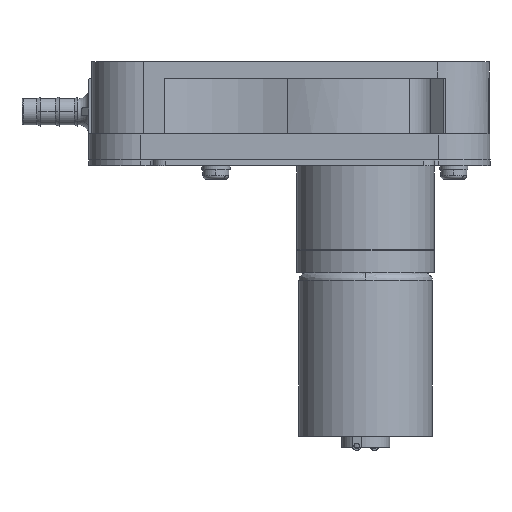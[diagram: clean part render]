
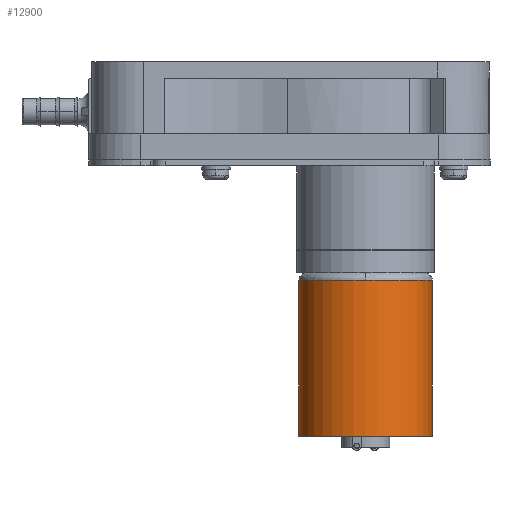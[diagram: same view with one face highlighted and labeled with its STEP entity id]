
A CAD part, left-side view. The second image highlights one B-rep face of the part: STEP entity #12900.
In plain terms, the highlighted cylindrical face has radius 18 mm (diameter 36 mm), a partial arc.
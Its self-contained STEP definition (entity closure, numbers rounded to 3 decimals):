
#16 = DIRECTION ( 'NONE',  ( 0., 0., 1. ) ) ;
#210 = VERTEX_POINT ( 'NONE', #24117 ) ;
#752 = LINE ( 'NONE', #6839, #9950 ) ;
#1146 = EDGE_CURVE ( 'NONE', #210, #17193, #12406, .T. ) ;
#1192 = ORIENTED_EDGE ( 'NONE', *, *, #11186, .F. ) ;
#1633 = CIRCLE ( 'NONE', #13971, 18. ) ;
#2136 = CARTESIAN_POINT ( 'NONE',  ( 0., 31.05, 0. ) ) ;
#2838 = ORIENTED_EDGE ( 'NONE', *, *, #5151, .T. ) ;
#3026 = VERTEX_POINT ( 'NONE', #6449 ) ;
#3861 = DIRECTION ( 'NONE',  ( 0., 1., 0. ) ) ;
#5045 = DIRECTION ( 'NONE',  ( 0., 0., -1. ) ) ;
#5151 = EDGE_CURVE ( 'NONE', #3026, #210, #6054, .T. ) ;
#5843 = DIRECTION ( 'NONE',  ( 0., -1., 0. ) ) ;
#5985 = CARTESIAN_POINT ( 'NONE',  ( 0., 31.05, 0. ) ) ;
#6054 = CIRCLE ( 'NONE', #11998, 18. ) ;
#6449 = CARTESIAN_POINT ( 'NONE',  ( 0., 31.05, -18. ) ) ;
#6839 = CARTESIAN_POINT ( 'NONE',  ( 0., 73.05, 18. ) ) ;
#8054 = EDGE_CURVE ( 'NONE', #25591, #26301, #1633, .T. ) ;
#8232 = DIRECTION ( 'NONE',  ( -1., 0., 0. ) ) ;
#8873 = DIRECTION ( 'NONE',  ( 0., -1., 0. ) ) ;
#9950 = VECTOR ( 'NONE', #10696, 1000. ) ;
#10696 = DIRECTION ( 'NONE',  ( 0., -1., 0. ) ) ;
#11148 = FACE_OUTER_BOUND ( 'NONE', #13875, .T. ) ;
#11186 = EDGE_CURVE ( 'NONE', #26301, #17193, #752, .T. ) ;
#11293 = CARTESIAN_POINT ( 'NONE',  ( 0., 73.05, 0. ) ) ;
#11998 = AXIS2_PLACEMENT_3D ( 'NONE', #5985, #22535, #16530 ) ;
#12406 = CIRCLE ( 'NONE', #16244, 18. ) ;
#12900 = ADVANCED_FACE ( 'NONE', ( #11148 ), #25186, .T. ) ;
#13875 = EDGE_LOOP ( 'NONE', ( #1192, #22124, #24770, #2838, #23541 ) ) ;
#13971 = AXIS2_PLACEMENT_3D ( 'NONE', #22016, #3861, #16 ) ;
#16244 = AXIS2_PLACEMENT_3D ( 'NONE', #2136, #18408, #8232 ) ;
#16362 = AXIS2_PLACEMENT_3D ( 'NONE', #11293, #8873, #5045 ) ;
#16530 = DIRECTION ( 'NONE',  ( -1., 0., 0. ) ) ;
#17193 = VERTEX_POINT ( 'NONE', #19749 ) ;
#18408 = DIRECTION ( 'NONE',  ( 0., 1., 0. ) ) ;
#19275 = VECTOR ( 'NONE', #5843, 1000. ) ;
#19734 = CARTESIAN_POINT ( 'NONE',  ( 0., 73.05, -18. ) ) ;
#19749 = CARTESIAN_POINT ( 'NONE',  ( 0., 31.05, 18. ) ) ;
#21293 = EDGE_CURVE ( 'NONE', #25591, #3026, #25731, .T. ) ;
#22016 = CARTESIAN_POINT ( 'NONE',  ( 0., 73.05, 0. ) ) ;
#22124 = ORIENTED_EDGE ( 'NONE', *, *, #8054, .F. ) ;
#22535 = DIRECTION ( 'NONE',  ( 0., 1., 0. ) ) ;
#23098 = CARTESIAN_POINT ( 'NONE',  ( 0., 73.05, -18. ) ) ;
#23541 = ORIENTED_EDGE ( 'NONE', *, *, #1146, .T. ) ;
#24117 = CARTESIAN_POINT ( 'NONE',  ( -18., 31.05, 0. ) ) ;
#24770 = ORIENTED_EDGE ( 'NONE', *, *, #21293, .T. ) ;
#25186 = CYLINDRICAL_SURFACE ( 'NONE', #16362, 18. ) ;
#25591 = VERTEX_POINT ( 'NONE', #23098 ) ;
#25731 = LINE ( 'NONE', #19734, #19275 ) ;
#25738 = CARTESIAN_POINT ( 'NONE',  ( 0., 73.05, 18. ) ) ;
#26301 = VERTEX_POINT ( 'NONE', #25738 ) ;
